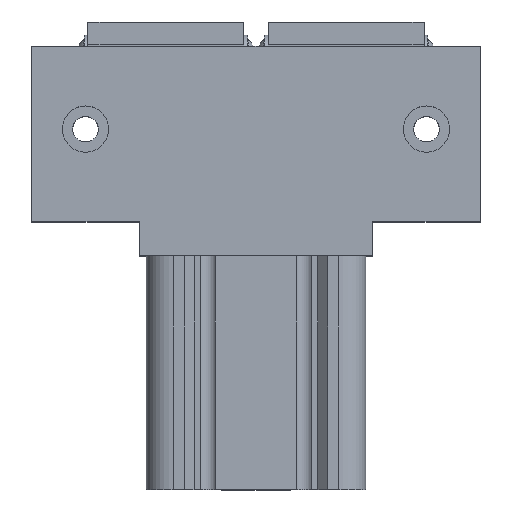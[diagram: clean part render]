
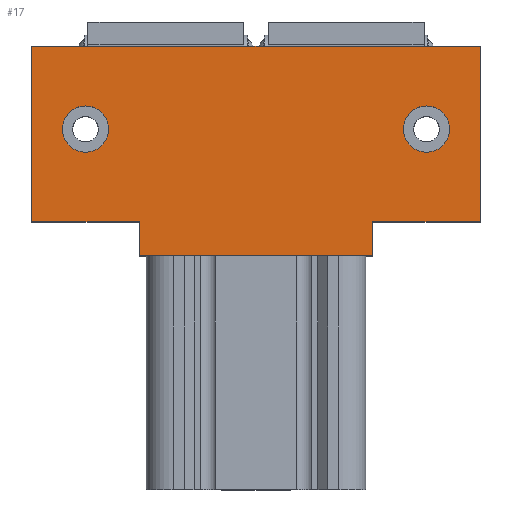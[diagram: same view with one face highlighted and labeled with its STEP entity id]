
A CAD part, top view. The second image highlights one B-rep face of the part: STEP entity #17.
In plain terms, the highlighted planar face has unit normal (0, 0, 1) as drawn and (0, 0, -1) by its records, which use the part's own axes.
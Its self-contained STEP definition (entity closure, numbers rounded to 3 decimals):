
#17 = ADVANCED_FACE ( 'NONE', ( #2428, #2432, #2430 ), #4344, .F. ) ;
#426 = EDGE_CURVE ( 'NONE', #3884, #3885, #5704, .T. ) ;
#429 = EDGE_CURVE ( 'NONE', #3888, #3889, #5709, .T. ) ;
#1086 = ORIENTED_EDGE ( 'NONE', *, *, #2970, .T. ) ;
#1087 = ORIENTED_EDGE ( 'NONE', *, *, #2981, .F. ) ;
#1088 = ORIENTED_EDGE ( 'NONE', *, *, #2980, .T. ) ;
#1089 = ORIENTED_EDGE ( 'NONE', *, *, #2979, .F. ) ;
#1090 = ORIENTED_EDGE ( 'NONE', *, *, #2978, .F. ) ;
#1091 = ORIENTED_EDGE ( 'NONE', *, *, #2965, .F. ) ;
#1098 = ORIENTED_EDGE ( 'NONE', *, *, #2977, .F. ) ;
#1099 = ORIENTED_EDGE ( 'NONE', *, *, #2960, .T. ) ;
#1100 = ORIENTED_EDGE ( 'NONE', *, *, #429, .F. ) ;
#1101 = ORIENTED_EDGE ( 'NONE', *, *, #2976, .F. ) ;
#1102 = ORIENTED_EDGE ( 'NONE', *, *, #426, .F. ) ;
#1103 = ORIENTED_EDGE ( 'NONE', *, *, #2975, .F. ) ;
#1818 = CARTESIAN_POINT ( 'NONE',  ( -30.25, 17., -24. ) ) ;
#1819 = CARTESIAN_POINT ( 'NONE',  ( -39.75, 17., -24. ) ) ;
#1822 = CARTESIAN_POINT ( 'NONE',  ( 39.75, 17., -24. ) ) ;
#1823 = CARTESIAN_POINT ( 'NONE',  ( 30.25, 17., -24. ) ) ;
#1880 = CARTESIAN_POINT ( 'NONE',  ( -24., 36., -24. ) ) ;
#1889 = CARTESIAN_POINT ( 'NONE',  ( 46., 0., -24. ) ) ;
#1893 = CARTESIAN_POINT ( 'NONE',  ( -46., 0., -24. ) ) ;
#1896 = CARTESIAN_POINT ( 'NONE',  ( 46., 36., -24. ) ) ;
#1898 = CARTESIAN_POINT ( 'NONE',  ( -46., 36., -24. ) ) ;
#1901 = CARTESIAN_POINT ( 'NONE',  ( 24., 43., -24. ) ) ;
#1906 = CARTESIAN_POINT ( 'NONE',  ( -24., 43., -24. ) ) ;
#1908 = CARTESIAN_POINT ( 'NONE',  ( 24., 36., -24. ) ) ;
#2283 = EDGE_LOOP ( 'NONE', ( #1101, #1100 ) ) ;
#2285 = EDGE_LOOP ( 'NONE', ( #1103, #1102 ) ) ;
#2288 = EDGE_LOOP ( 'NONE', ( #1099, #1098, #1091, #1090, #1089, #1088, #1087, #1086 ) ) ;
#2428 = FACE_BOUND ( 'NONE', #2285, .T. ) ;
#2430 = FACE_OUTER_BOUND ( 'NONE', #2288, .T. ) ;
#2432 = FACE_BOUND ( 'NONE', #2283, .T. ) ;
#2960 = EDGE_CURVE ( 'NONE', #3955, #3959, #5995, .T. ) ;
#2965 = EDGE_CURVE ( 'NONE', #3946, #3964, #5999, .T. ) ;
#2970 = EDGE_CURVE ( 'NONE', #3962, #3955, #6014, .T. ) ;
#2975 = EDGE_CURVE ( 'NONE', #3885, #3884, #6018, .T. ) ;
#2976 = EDGE_CURVE ( 'NONE', #3889, #3888, #6026, .T. ) ;
#2977 = EDGE_CURVE ( 'NONE', #3964, #3959, #6027, .T. ) ;
#2978 = EDGE_CURVE ( 'NONE', #3972, #3946, #6028, .T. ) ;
#2979 = EDGE_CURVE ( 'NONE', #3967, #3972, #6030, .T. ) ;
#2980 = EDGE_CURVE ( 'NONE', #3967, #3974, #6024, .T. ) ;
#2981 = EDGE_CURVE ( 'NONE', #3962, #3974, #6034, .T. ) ;
#3884 = VERTEX_POINT ( 'NONE', #1818 ) ;
#3885 = VERTEX_POINT ( 'NONE', #1819 ) ;
#3888 = VERTEX_POINT ( 'NONE', #1822 ) ;
#3889 = VERTEX_POINT ( 'NONE', #1823 ) ;
#3946 = VERTEX_POINT ( 'NONE', #1880 ) ;
#3955 = VERTEX_POINT ( 'NONE', #1889 ) ;
#3959 = VERTEX_POINT ( 'NONE', #1893 ) ;
#3962 = VERTEX_POINT ( 'NONE', #1896 ) ;
#3964 = VERTEX_POINT ( 'NONE', #1898 ) ;
#3967 = VERTEX_POINT ( 'NONE', #1901 ) ;
#3972 = VERTEX_POINT ( 'NONE', #1906 ) ;
#3974 = VERTEX_POINT ( 'NONE', #1908 ) ;
#4337 = DIRECTION ( 'NONE',  ( 0., 0., 1. ) ) ;
#4342 = CARTESIAN_POINT ( 'NONE',  ( 46., 36., -24. ) ) ;
#4344 = PLANE ( 'NONE',  #5169 ) ;
#4346 = DIRECTION ( 'NONE',  ( 1., 0., 0. ) ) ;
#5169 = AXIS2_PLACEMENT_3D ( 'NONE', #4342, #4337, #4346 ) ;
#5428 = AXIS2_PLACEMENT_3D ( 'NONE', #8126, #8127, #8128 ) ;
#5434 = AXIS2_PLACEMENT_3D ( 'NONE', #8134, #8135, #8136 ) ;
#5519 = AXIS2_PLACEMENT_3D ( 'NONE', #7267, #7268, #7269 ) ;
#5520 = AXIS2_PLACEMENT_3D ( 'NONE', #7271, #7272, #7273 ) ;
#5704 = CIRCLE ( 'NONE', #5428, 4.75 ) ;
#5709 = CIRCLE ( 'NONE', #5434, 4.75 ) ;
#5995 = LINE ( 'NONE', #7230, #6000 ) ;
#5999 = LINE ( 'NONE', #7243, #6007 ) ;
#6000 = VECTOR ( 'NONE', #7233, 1000. ) ;
#6007 = VECTOR ( 'NONE', #7248, 1000. ) ;
#6014 = LINE ( 'NONE', #7256, #6017 ) ;
#6017 = VECTOR ( 'NONE', #7257, 1000. ) ;
#6018 = CIRCLE ( 'NONE', #5519, 4.75 ) ;
#6024 = LINE ( 'NONE', #7270, #6035 ) ;
#6026 = CIRCLE ( 'NONE', #5520, 4.75 ) ;
#6027 = LINE ( 'NONE', #7265, #6029 ) ;
#6028 = LINE ( 'NONE', #7274, #6031 ) ;
#6029 = VECTOR ( 'NONE', #7266, 1000. ) ;
#6030 = LINE ( 'NONE', #7276, #6033 ) ;
#6031 = VECTOR ( 'NONE', #7275, 1000. ) ;
#6033 = VECTOR ( 'NONE', #7277, 1000. ) ;
#6034 = LINE ( 'NONE', #7279, #6037 ) ;
#6035 = VECTOR ( 'NONE', #7278, 1000. ) ;
#6037 = VECTOR ( 'NONE', #7280, 1000. ) ;
#7230 = CARTESIAN_POINT ( 'NONE',  ( 46., 0., -24. ) ) ;
#7233 = DIRECTION ( 'NONE',  ( -1., 0., 0. ) ) ;
#7243 = CARTESIAN_POINT ( 'NONE',  ( 46., 36., -24. ) ) ;
#7248 = DIRECTION ( 'NONE',  ( -1., 0., 0. ) ) ;
#7256 = CARTESIAN_POINT ( 'NONE',  ( 46., 36., -24. ) ) ;
#7257 = DIRECTION ( 'NONE',  ( 0., -1., 0. ) ) ;
#7265 = CARTESIAN_POINT ( 'NONE',  ( -46., 36., -24. ) ) ;
#7266 = DIRECTION ( 'NONE',  ( 0., -1., 0. ) ) ;
#7267 = CARTESIAN_POINT ( 'NONE',  ( -35., 17., -24. ) ) ;
#7268 = DIRECTION ( 'NONE',  ( 0., 0., -1. ) ) ;
#7269 = DIRECTION ( 'NONE',  ( -1., 0., 0. ) ) ;
#7270 = CARTESIAN_POINT ( 'NONE',  ( 24., 43., -24. ) ) ;
#7271 = CARTESIAN_POINT ( 'NONE',  ( 35., 17., -24. ) ) ;
#7272 = DIRECTION ( 'NONE',  ( 0., 0., -1. ) ) ;
#7273 = DIRECTION ( 'NONE',  ( -1., 0., 0. ) ) ;
#7274 = CARTESIAN_POINT ( 'NONE',  ( -24., 43., -24. ) ) ;
#7275 = DIRECTION ( 'NONE',  ( 0., -1., 0. ) ) ;
#7276 = CARTESIAN_POINT ( 'NONE',  ( -24., 43., -24. ) ) ;
#7277 = DIRECTION ( 'NONE',  ( -1., 0., 0. ) ) ;
#7278 = DIRECTION ( 'NONE',  ( 0., -1., 0. ) ) ;
#7279 = CARTESIAN_POINT ( 'NONE',  ( 46., 36., -24. ) ) ;
#7280 = DIRECTION ( 'NONE',  ( -1., 0., 0. ) ) ;
#8126 = CARTESIAN_POINT ( 'NONE',  ( -35., 17., -24. ) ) ;
#8127 = DIRECTION ( 'NONE',  ( 0., 0., -1. ) ) ;
#8128 = DIRECTION ( 'NONE',  ( -1., 0., 0. ) ) ;
#8134 = CARTESIAN_POINT ( 'NONE',  ( 35., 17., -24. ) ) ;
#8135 = DIRECTION ( 'NONE',  ( 0., 0., -1. ) ) ;
#8136 = DIRECTION ( 'NONE',  ( -1., 0., 0. ) ) ;
